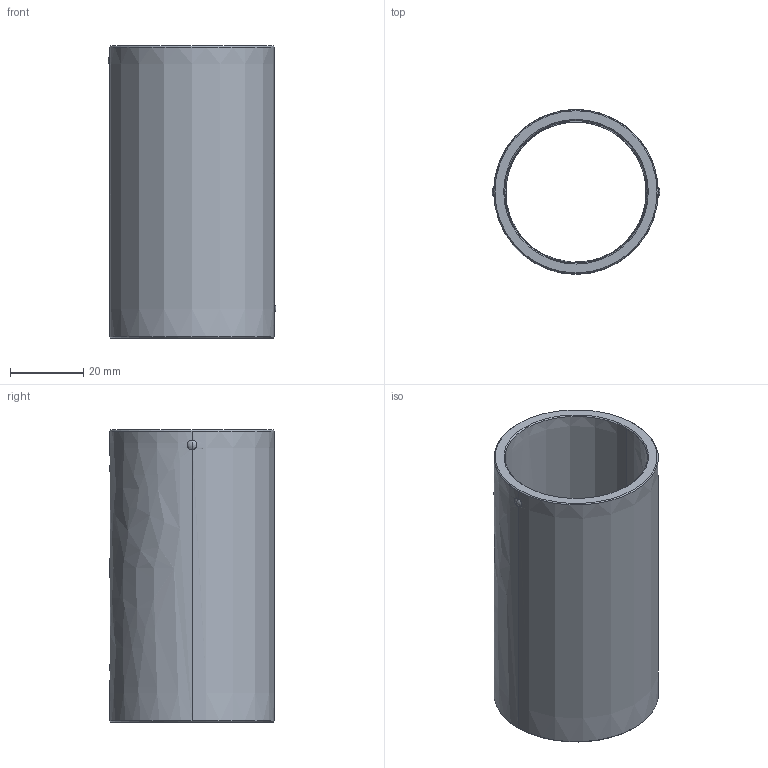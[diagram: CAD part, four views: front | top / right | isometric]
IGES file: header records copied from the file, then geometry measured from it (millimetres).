
Start section: START RECORD GO HERE.
Global section: file name: 730-38x80.igs; native system: DASSAULT SYSTEMES CATIA V5 R20 - www.3ds.com; preprocessor: CATIA Version 5 Release 20 ; author: Utente; organization: NB04-ASUS; date: 20210107.171050; units: millimetre
Bounding box: 45.99 x 45 x 80 mm (x, y, z)
Surface area: 22294.9 mm2 (no closed solid volume)
Topology: 0 solids, 0 shells, 44 faces, 240 edges, 240 vertices
Faces by surface type: revolution 36, plane 8
